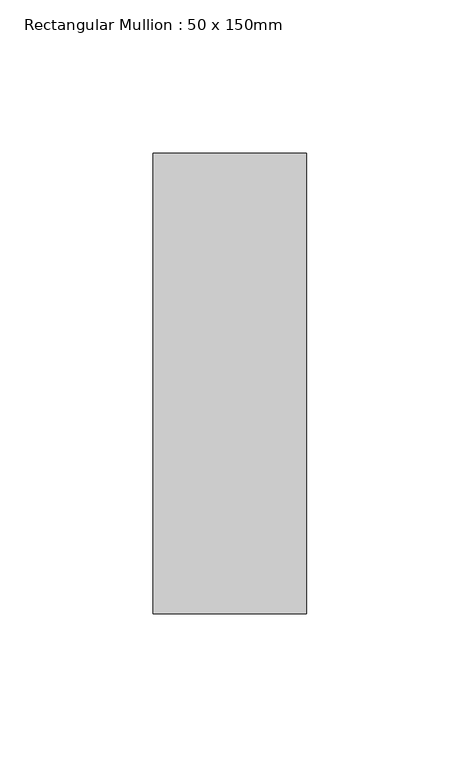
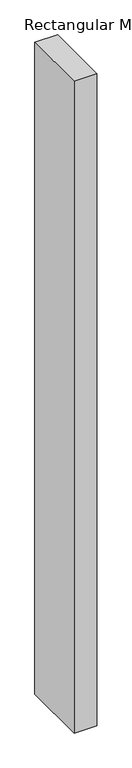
"""IFC4 building model written with IfcOpenShell, lengths in millimetres: member geometry, Rectangular Mullion : 50 x 150mm."""

from ifc_helpers import new_model, si_unit, frame, origin, place, context, project, spatial, polyline, outline, extrude, source, transform, mapped, element, save


def rectangular_mullion_50_x_150mm_7818fba5(model_context):
    return source(origin(), model_context, "Body", "SweptSolid", [
        extrude(outline(polyline([(0.0, 75.0), (0.0, -75.0), (-50.0, -75.0), (-50.0, 75.0), (0.0, 75.0)])), frame((0.0, 0.0, -1523.7087038), z_axis=(0.0, 0.0, 1.0), x_axis=(1.0, 0.0, 0.0)), (0.0, 0.0, 1.0), 1523.7087038),
    ])


if __name__ == "__main__":
    model = new_model("IFC4")
    model_context = context("Model", 3, world=origin())
    ifc_project = project(units=[si_unit("LENGTHUNIT", "METRE", prefix="MILLI")], contexts=[model_context])
    site = spatial("IfcSite", under=ifc_project)
    building = spatial("IfcBuilding", under=site)
    placement = place(None, origin())
    rectangular_mullion_50_x_150mm_shape = rectangular_mullion_50_x_150mm_7818fba5(model_context)
    element("IfcMember", 1, ObjectType="Rectangular Mullion : 50 x 150mm", at=placement, inside=building, context=model_context, shape_type="MappedRepresentation", body=[
        mapped(rectangular_mullion_50_x_150mm_shape, transform((0.0, 0.0, 0.0), x_axis=(1.0, 0.0, 0.0), y_axis=(0.0, 1.0, 0.0), z_axis=(0.0, 0.0, 1.0))),
    ])
    save(model, "model.ifc")
